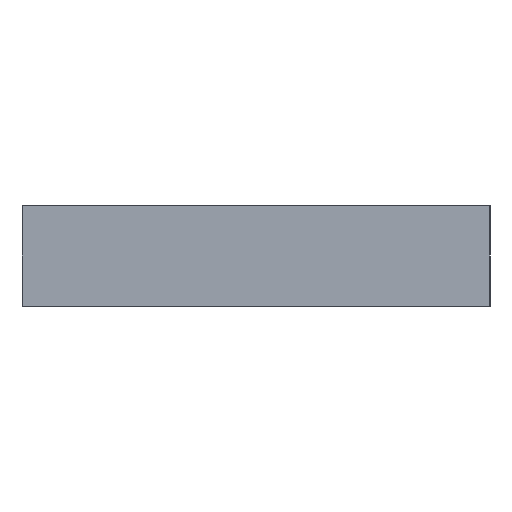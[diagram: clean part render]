
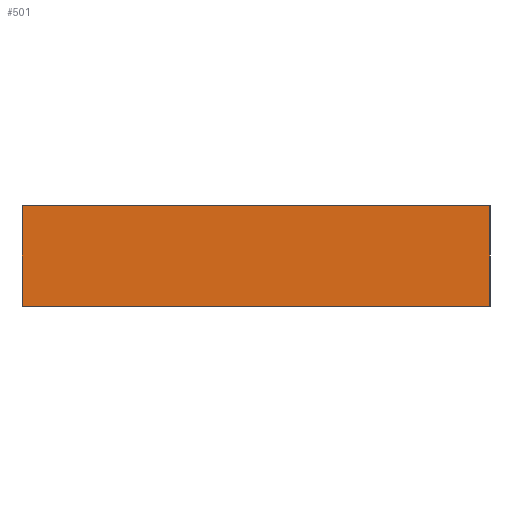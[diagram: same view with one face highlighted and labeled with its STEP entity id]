
A CAD part, front view. The second image highlights one B-rep face of the part: STEP entity #501.
In plain terms, the highlighted planar face has unit normal (0, -1, 0).
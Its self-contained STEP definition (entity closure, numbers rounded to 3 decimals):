
#18 = ORIENTED_EDGE ( 'NONE', *, *, #167, .F. ) ;
#38 = LINE ( 'NONE', #498, #391 ) ;
#48 = ORIENTED_EDGE ( 'NONE', *, *, #100, .T. ) ;
#59 = DIRECTION ( 'NONE',  ( 1., 0., 0. ) ) ;
#72 = DIRECTION ( 'NONE',  ( 0., 1., 0. ) ) ;
#99 = CARTESIAN_POINT ( 'NONE',  ( 7., -208.5, 3. ) ) ;
#100 = EDGE_CURVE ( 'NONE', #168, #432, #232, .T. ) ;
#110 = VECTOR ( 'NONE', #298, 1000. ) ;
#115 = CARTESIAN_POINT ( 'NONE',  ( -7., -208.5, 0. ) ) ;
#127 = EDGE_CURVE ( 'NONE', #432, #315, #38, .T. ) ;
#143 = FACE_OUTER_BOUND ( 'NONE', #468, .T. ) ;
#150 = LINE ( 'NONE', #426, #345 ) ;
#157 = ORIENTED_EDGE ( 'NONE', *, *, #127, .T. ) ;
#167 = EDGE_CURVE ( 'NONE', #229, #315, #150, .T. ) ;
#168 = VERTEX_POINT ( 'NONE', #218 ) ;
#169 = DIRECTION ( 'NONE',  ( 0., 0., -1. ) ) ;
#183 = CARTESIAN_POINT ( 'NONE',  ( 0., -208.5, 3. ) ) ;
#193 = CARTESIAN_POINT ( 'NONE',  ( 0., -208.5, 3. ) ) ;
#210 = VECTOR ( 'NONE', #443, 1000. ) ;
#218 = CARTESIAN_POINT ( 'NONE',  ( -7., -208.5, 3. ) ) ;
#229 = VERTEX_POINT ( 'NONE', #99 ) ;
#232 = LINE ( 'NONE', #339, #110 ) ;
#238 = AXIS2_PLACEMENT_3D ( 'NONE', #183, #72, #361 ) ;
#271 = LINE ( 'NONE', #193, #210 ) ;
#298 = DIRECTION ( 'NONE',  ( 0., 0., -1. ) ) ;
#307 = PLANE ( 'NONE',  #238 ) ;
#315 = VERTEX_POINT ( 'NONE', #512 ) ;
#339 = CARTESIAN_POINT ( 'NONE',  ( -7., -208.5, 3. ) ) ;
#345 = VECTOR ( 'NONE', #169, 1000. ) ;
#361 = DIRECTION ( 'NONE',  ( 0., 0., 1. ) ) ;
#369 = ORIENTED_EDGE ( 'NONE', *, *, #460, .F. ) ;
#391 = VECTOR ( 'NONE', #59, 1000. ) ;
#426 = CARTESIAN_POINT ( 'NONE',  ( 7., -208.5, 3. ) ) ;
#432 = VERTEX_POINT ( 'NONE', #115 ) ;
#443 = DIRECTION ( 'NONE',  ( 1., 0., 0. ) ) ;
#460 = EDGE_CURVE ( 'NONE', #168, #229, #271, .T. ) ;
#468 = EDGE_LOOP ( 'NONE', ( #157, #18, #369, #48 ) ) ;
#498 = CARTESIAN_POINT ( 'NONE',  ( 0., -208.5, 0. ) ) ;
#501 = ADVANCED_FACE ( 'NONE', ( #143 ), #307, .F. ) ;
#512 = CARTESIAN_POINT ( 'NONE',  ( 7., -208.5, 0. ) ) ;
